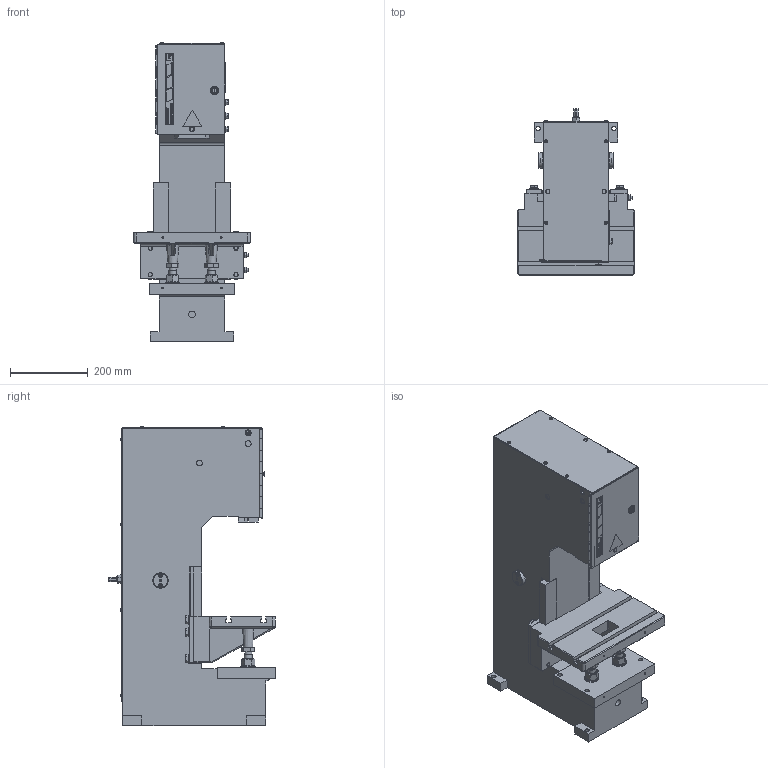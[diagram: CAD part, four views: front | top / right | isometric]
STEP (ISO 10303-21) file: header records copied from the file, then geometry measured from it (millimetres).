
FILE_DESCRIPTION(/* description */ (''),/* implementation_level */ '2;1');
FILE_NAME(/* name */ 'P:\CAD-Daten-für-Kunden\07_Pressen KHP\01_KHP Standard\Presse_KHP_20kN_G700_Hub40_ANR18389.stp',/* time_stamp */ '2021-03-08T07:43:01+01:00',/* author */ ('tse'),/* organization */ (''),/* preprocessor_version */ 'ST-DEVELOPER v18',/* originating_system */ 'Autodesk Inventor 2020',/* authorisation */ '');
FILE_SCHEMA (('AUTOMOTIVE_DESIGN { 1 0 10303 214 3 1 1 }'));
Products named in the file (4): Presse_KHP_20kN_G700_Hub40_ANR18389; Ständereinheit_KHP_20-30kN_G700; Tischeinheit_KHP_20-30kN_ANR18477; Schlittendummy_KHP_20-30kN_ANR18473
Assembly tree (3 placements, depth 2):
  Presse_KHP_20kN_G700_Hub40_ANR18389
    Ständereinheit_KHP_20-30kN_G700
    Tischeinheit_KHP_20-30kN_ANR18477
    Schlittendummy_KHP_20-30kN_ANR18473
Bounding box: 300 x 429.65 x 771.4 mm (x, y, z)
Volume: 30450528.1 mm3; surface area: 1651204.8 mm2
Topology: 4 solids, 44 shells, 6822 faces, 18462 edges, 12309 vertices
Faces by surface type: plane 3613, bspline 2534, cylinder 389, cone 234, torus 47, sphere 5
Full cylindrical faces by diameter (mm): 1.5 x1, 1.6 x1, 2 x12, 2.1 x4, 2.459 x1, 2.5 x2, 3 x8, 3.242 x2, 4 x17, 4.134 x5, 4.917 x12, 5 x16, 5.5 x9, 5.6 x3, 5.8 x2, 5.9 x1, 6 x1, 6.647 x7, 8 x26, 8.376 x1, 8.4 x8, 8.5 x7, 9 x2, 10 x7, 10.106 x2, 11 x13, 12 x7, 12.5 x6, 13 x15, 15 x6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
Entity records: 232885 total; most frequent: CARTESIAN_POINT 71031, ORIENTED_EDGE 36856, DIRECTION 23078, EDGE_CURVE 18428, VERTEX_POINT 12314, LINE 11154, VECTOR 11154, EDGE_LOOP 7608
